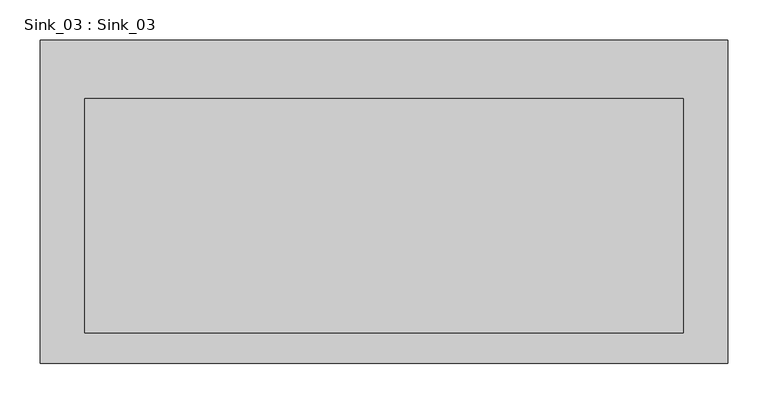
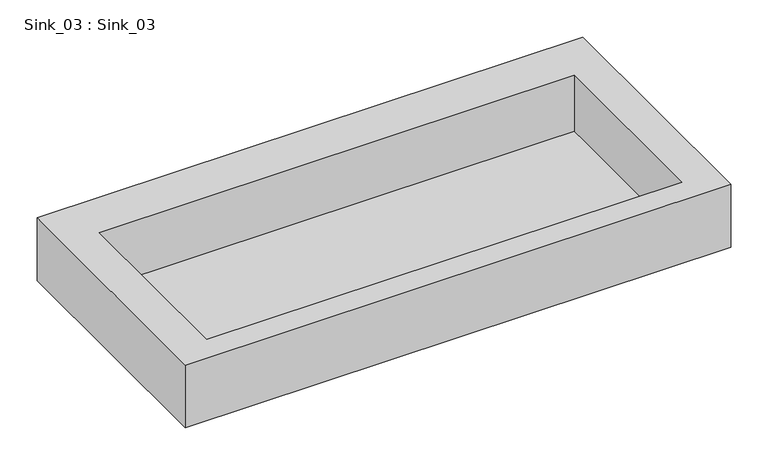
"""IFC4 building model written with IfcOpenShell, lengths in millimetres: flow terminal geometry, Sink_03 : Sink_03."""

import ifcopenshell
import ifcopenshell.guid

model = None  # the IFC model being written
_history = None  # IfcOwnerHistory: only IFC2X3 demands one
_inside = {}  # id of a spatial element -> (the spatial element, [elements in it])
_under = {}  # id of a project, library or spatial element -> (it, [spatial elements below it])
_declared = {}  # id of a project -> (the project, [libraries it declares])
_typed = {}  # id of a type object -> (the type object, [elements of that type])
_made_of = {}  # id of a material, layer set ... -> (it, [elements and type objects made of it])


def new_model(schema):
    """Start an empty IFC model of exactly this schema.

    Asked for "IFC4X3", IfcOpenShell would pick the latest addendum, in which some entities
    have other attributes; the version numbers below select the first issue.
    IFC2X3 requires an IfcOwnerHistory on every rooted entity: one is made here for all.
    """
    global model, _history
    if schema == "IFC4X3":
        model = ifcopenshell.file(schema_version=(4, 3, 0, 0))
    else:
        model = ifcopenshell.file(schema=schema)
    _inside.clear()
    _under.clear()
    _declared.clear()
    _typed.clear()
    _made_of.clear()
    _history = None
    if model.schema == "IFC2X3":
        org = make("IfcOrganization", Name="unknown")
        user = make(
            "IfcPersonAndOrganization",
            ThePerson=make("IfcPerson", FamilyName="unknown"),
            TheOrganization=org,
        )
        app = make(
            "IfcApplication",
            ApplicationDeveloper=org,
            Version="unknown",
            ApplicationFullName="unknown",
            ApplicationIdentifier="unknown",
        )
        _history = make(
            "IfcOwnerHistory",
            OwningUser=user,
            OwningApplication=app,
            ChangeAction="ADDED",
            CreationDate=0,
        )
    return model


def make(cls, **values):
    """One entity of the class cls with the attributes given. An attribute that is None is left unset."""
    return model.create_entity(
        cls, **{name: value for name, value in values.items() if value is not None}
    )


def rooted(cls, **values):
    """An entity with a GlobalId (a new one), such as an element, a storey or a relation."""
    return make(cls, GlobalId=ifcopenshell.guid.new(), OwnerHistory=_history, **values)


def si_unit(unit_type, name, prefix=None):
    """IfcSIUnit, for example si_unit("LENGTHUNIT", "METRE", prefix="MILLI")."""
    return make("IfcSIUnit", UnitType=unit_type, Prefix=prefix, Name=name)


def assignment(units):
    """IfcUnitAssignment: the units of a project."""
    return None if units is None else make("IfcUnitAssignment", Units=units)


def point(xyz):
    """IfcCartesianPoint."""
    return None if xyz is None else make("IfcCartesianPoint", Coordinates=xyz)


def direction(xyz):
    """IfcDirection."""
    return None if xyz is None else make("IfcDirection", DirectionRatios=xyz)


def frame(location, z_axis=None, x_axis=None):
    """IfcAxis2Placement3D, a coordinate frame: its origin and axes. An axis left out is left unset."""
    return make(
        "IfcAxis2Placement3D",
        Location=point(location),
        Axis=direction(z_axis),
        RefDirection=direction(x_axis),
    )


def origin():
    """The frame at (0, 0, 0) with its axes left unset."""
    return frame((0.0, 0.0, 0.0))


def place(relative_to, where):
    """IfcLocalPlacement: puts the frame where relative to a parent placement (None: the world)."""
    return make(
        "IfcLocalPlacement", PlacementRelTo=relative_to, RelativePlacement=where
    )


def context(
    kind, dimensions, precision=None, world=None, true_north=None, identifier=None
):
    """IfcGeometricRepresentationContext, for example the 3D "Model" context."""
    return make(
        "IfcGeometricRepresentationContext",
        ContextIdentifier=identifier,
        ContextType=kind,
        CoordinateSpaceDimension=dimensions,
        Precision=precision,
        WorldCoordinateSystem=world,
        TrueNorth=true_north,
    )


def project(units=None, contexts=None):
    """IfcProject with its units and contexts."""
    return rooted(
        "IfcProject",
        Name="project",
        RepresentationContexts=contexts,
        UnitsInContext=assignment(units),
    )


def spatial(cls, under=None, at=None, **own):
    """A site, building, storey or space (cls), placed at a placement, below another one or the project."""
    s = rooted(cls, ObjectPlacement=at, **own)
    if under is not None:
        _under.setdefault(under.id(), (under, []))[1].append(s)
    return s


def faces_of(points, faces, orient=None, outer=None):
    """IfcFace entities. A face is a list of loops; a loop is a list of indices into points, from 0.

    orient and outer hold one flag for each loop. By default every Orientation is true, the
    first loop of a face is its IfcFaceOuterBound and the others are IfcFaceBound.
    """
    made = []
    for i, loops in enumerate(faces):
        bounds = []
        for j, loop in enumerate(loops):
            is_outer = j == 0 if outer is None else outer[i][j]
            bounds.append(
                make(
                    "IfcFaceOuterBound" if is_outer else "IfcFaceBound",
                    Bound=make("IfcPolyLoop", Polygon=[points[k] for k in loop]),
                    Orientation=True if orient is None else orient[i][j],
                )
            )
        made.append(make("IfcFace", Bounds=bounds))
    return made


def faceted_brep(points, faces, orient=None, outer=None, voids=None):
    """IfcFacetedBrep: a solid bounded by flat faces; with voids (closed shells), ...WithVoids."""
    shared = [point(p) for p in points]
    hull = make("IfcClosedShell", CfsFaces=faces_of(shared, faces, orient, outer))
    if voids is None:
        return make("IfcFacetedBrep", Outer=hull)
    return make(
        "IfcFacetedBrepWithVoids",
        Outer=hull,
        Voids=[
            make(cls, CfsFaces=faces_of(shared, fs, o, b)) for cls, fs, o, b in voids
        ],
    )


def shape(context_of_items, identifier, shape_type, items):
    """IfcShapeRepresentation: the items that make up one representation, for example the "Body"."""
    return make(
        "IfcShapeRepresentation",
        ContextOfItems=context_of_items,
        RepresentationIdentifier=identifier,
        RepresentationType=shape_type,
        Items=items,
    )


def source(mapping_origin, context_of_items, identifier, shape_type, items):
    """IfcRepresentationMap: a shape defined once, which mapped items show again and again."""
    return make(
        "IfcRepresentationMap",
        MappingOrigin=mapping_origin,
        MappedRepresentation=shape(context_of_items, identifier, shape_type, items),
    )


def transform(
    local_origin,
    x_axis=None,
    y_axis=None,
    z_axis=None,
    scale=None,
    scale2=None,
    scale3=None,
    uniform=True,
):
    """IfcCartesianTransformationOperator3D, or its non-uniform kind. x_axis, y_axis, z_axis: its Axis1, 2, 3."""
    if uniform:
        return make(
            "IfcCartesianTransformationOperator3D",
            Axis1=direction(x_axis),
            Axis2=direction(y_axis),
            LocalOrigin=point(local_origin),
            Scale=scale,
            Axis3=direction(z_axis),
        )
    return make(
        "IfcCartesianTransformationOperator3DnonUniform",
        Axis1=direction(x_axis),
        Axis2=direction(y_axis),
        LocalOrigin=point(local_origin),
        Scale=scale,
        Axis3=direction(z_axis),
        Scale2=scale2,
        Scale3=scale3,
    )


def mapped(mapping_source, mapping_target):
    """IfcMappedItem: shows the shape of a source again, moved by a transform."""
    return make(
        "IfcMappedItem", MappingSource=mapping_source, MappingTarget=mapping_target
    )


def made_of(thing, what):
    """Note that an element or type object is made of a material, layer set ...; save() writes the relation."""
    if what is not None:
        _made_of.setdefault(what.id(), (what, []))[1].append(thing)
    return thing


def element(
    cls,
    number,
    at=None,
    inside=None,
    cuts=None,
    type_object=None,
    material=None,
    context=None,
    identifier="Body",
    shape_type=None,
    held_by="IfcProductDefinitionShape",
    body=None,
    shapes=None,
    **own,
):
    """One element of the class cls, such as IfcWall. Its Tag is "e" and its number.

    at: its placement. inside: the storey or other place that contains it. cuts: it is an
    opening in that element (IfcRelVoidsElement). A single representation is given by context,
    identifier, shape_type and body (its items); several are given by shapes. held_by: the class
    of the entity that holds the representations. save() writes the other relations.
    """
    e = rooted(cls, Tag="e%d" % number, ObjectPlacement=at, **own)
    if body is not None:
        shapes = [shape(context, identifier, shape_type, body)]
    if shapes is not None:
        e.Representation = make(held_by, Representations=shapes)
    if inside is not None:
        _inside.setdefault(inside.id(), (inside, []))[1].append(e)
    if cuts is not None:
        rooted(
            "IfcRelVoidsElement", RelatingBuildingElement=cuts, RelatedOpeningElement=e
        )
    if type_object is not None:
        _typed.setdefault(type_object.id(), (type_object, []))[1].append(e)
    return made_of(e, material)


def aggregate(whole, parts):
    """IfcRelAggregates: a whole, such as a stair, and the parts it consists of."""
    return rooted("IfcRelAggregates", RelatingObject=whole, RelatedObjects=parts)


def save(model, path):
    """Write the relations noted so far, then the file.

    IfcRelAggregates (storeys below a building ...), IfcRelContainedInSpatialStructure (elements
    in a storey), IfcRelDefinesByType, IfcRelAssociatesMaterial and IfcRelDeclares: one each for
    every whole, place, type object, material and project.
    """
    for whole, parts in _under.values():
        aggregate(whole, parts)
    for where, things in _inside.values():
        rooted(
            "IfcRelContainedInSpatialStructure",
            RelatedElements=things,
            RelatingStructure=where,
        )
    for kind, things in _typed.values():
        rooted("IfcRelDefinesByType", RelatedObjects=things, RelatingType=kind)
    for what, things in _made_of.values():
        rooted("IfcRelAssociatesMaterial", RelatedObjects=things, RelatingMaterial=what)
    for by, libraries in _declared.values():
        rooted("IfcRelDeclares", RelatingContext=by, RelatedDefinitions=libraries)
    model.write(path)


def sink_03_sink_03_69375492(model_context):
    return source(origin(), model_context, "Body", "Brep", [
        faceted_brep([(3912.8987246, 16195.107716, 9002.3511795), (3062.8987246, 16195.107716, 9002.3511795), (3062.8987246, 15795.107716, 9002.3511795), (3912.8987246, 15795.107716, 9002.3511795), (3118.0219241, 16122.8446231, 9002.3511795), (3858.0219241, 16122.8446231, 9002.3511795), (3858.0219241, 15832.8446231, 9002.3511795), (3118.0219241, 15832.8446231, 9002.3511795), (3912.8987246, 16195.107716, 8898.8807956), (3912.8987246, 15795.107716, 8898.8807956), (3062.8987246, 15795.107716, 8898.8807956), (3062.8987246, 16195.107716, 8898.8807956), (3858.0219241, 16122.8446231, 8909.9203823), (3118.0219241, 16122.8446231, 8909.9203823), (3118.0219241, 15832.8446231, 8909.9203823), (3858.0219241, 15832.8446231, 8909.9203823)], [[[0, 1, 2, 3], [4, 5, 6, 7]], [[8, 9, 10, 11]], [[1, 0, 8, 11]], [[2, 1, 11, 10]], [[3, 2, 10, 9]], [[0, 3, 9, 8]], [[12, 13, 14, 15]], [[13, 12, 5, 4]], [[14, 13, 4, 7]], [[15, 14, 7, 6]], [[12, 15, 6, 5]]]),
    ])


if __name__ == "__main__":
    model = new_model("IFC4")
    model_context = context("Model", 3, world=origin())
    ifc_project = project(units=[si_unit("LENGTHUNIT", "METRE", prefix="MILLI")], contexts=[model_context])
    site = spatial("IfcSite", under=ifc_project)
    building = spatial("IfcBuilding", under=site)
    placement = place(None, origin())
    sink_03_sink_03_shape = sink_03_sink_03_69375492(model_context)
    element("IfcFlowTerminal", 1, ObjectType="Sink_03 : Sink_03", at=placement, inside=building, context=model_context, shape_type="MappedRepresentation", body=[
        mapped(sink_03_sink_03_shape, transform((0.0, 0.0, 0.0), x_axis=(1.0, 0.0, 0.0), y_axis=(0.0, 1.0, 0.0), z_axis=(0.0, 0.0, 1.0))),
    ])
    save(model, "model.ifc")
